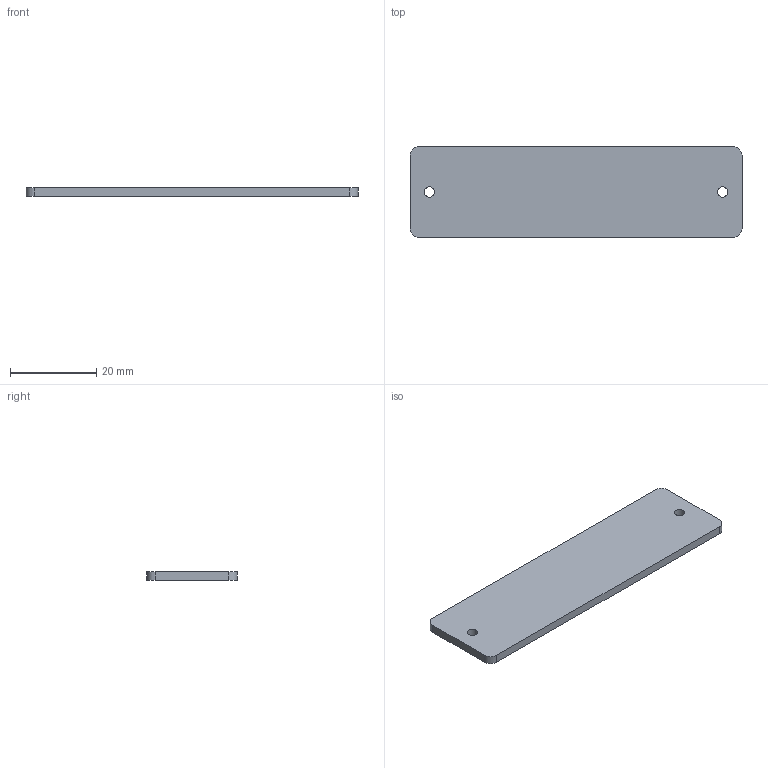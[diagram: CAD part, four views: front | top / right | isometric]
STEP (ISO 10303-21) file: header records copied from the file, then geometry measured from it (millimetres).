
FILE_DESCRIPTION(('Open CASCADE Model'),'2;1');
FILE_NAME('Open CASCADE Shape Model','2026-10-21T17:27:39',('Author'),( 'Open CASCADE'),'Open CASCADE STEP processor 7.9','Open CASCADE 7.9' ,'Unknown');
FILE_SCHEMA(('AUTOMOTIVE_DESIGN { 1 0 10303 214 1 1 1 1 }'));
Length unit declared in the file: millimetre
Products named in the file (1): Open CASCADE STEP translator 7.9 11
Bounding box: 77 x 21 x 2 mm (x, y, z)
Volume: 3209 mm3; surface area: 3624.3 mm2
Topology: 1 solids, 1 shells, 12 faces, 30 edges, 20 vertices
Faces by surface type: plane 6, cylinder 6
Full cylindrical faces by diameter (mm): 2.4 x2
Entity records: 786 total; most frequent: CARTESIAN_POINT 147, DIRECTION 124, LINE 66, VECTOR 66, ORIENTED_EDGE 60, PCURVE 60, DEFINITIONAL_REPRESENTATION 60, EDGE_CURVE 30
